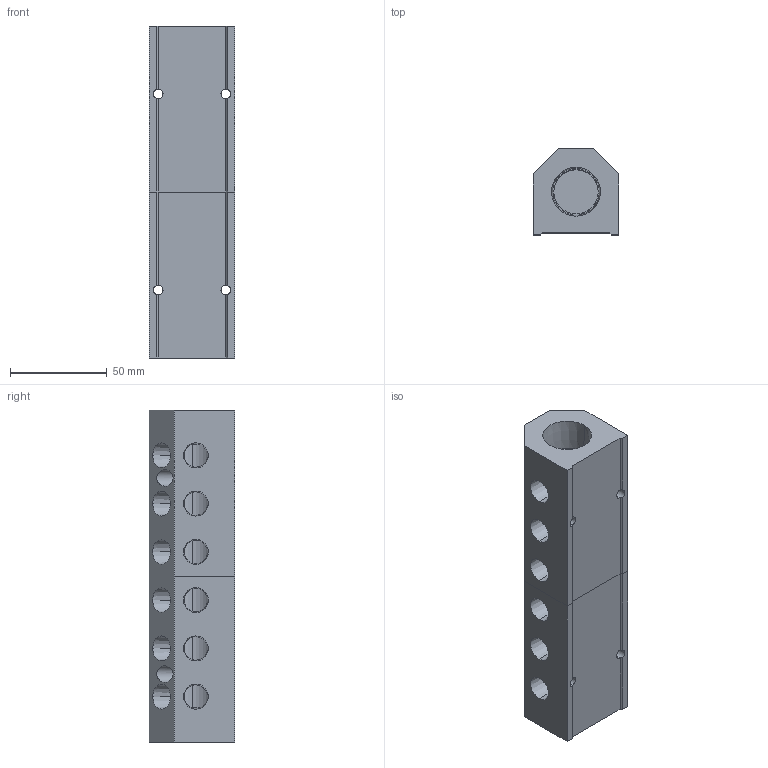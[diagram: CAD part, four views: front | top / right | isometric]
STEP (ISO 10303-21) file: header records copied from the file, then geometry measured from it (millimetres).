
FILE_DESCRIPTION (( 'STEP AP214' ), '1' );
FILE_NAME ('ALM6AB-N4N12-172RB.step', '2022-02-06T14:18:42', ( '' ), ( '' ), 'SwSTEP 2.0', 'SolidWorks 2020', '' );
FILE_SCHEMA (( 'AUTOMOTIVE_DESIGN' ));
Length unit declared in the file: millimetre
Products named in the file (1): ALM6AB-N4N12-172RB
Bounding box: 44.5 x 44.5 x 172 mm (x, y, z)
Volume: 212171 mm3; surface area: 52271.7 mm2
Topology: 2 solids, 2 shells, 351 faces, 956 edges, 634 vertices
Faces by surface type: plane 243, bspline 49, cone 33, cylinder 26
Entity records: 18512 total; most frequent: CARTESIAN_POINT 6661, ORIENTED_EDGE 1912, DIRECTION 1454, EDGE_CURVE 956, VECTOR 696, LINE 696, VERTEX_POINT 634, EDGE_LOOP 408
